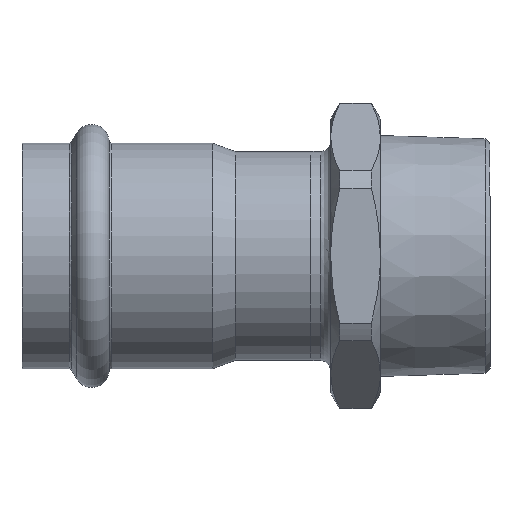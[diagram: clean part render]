
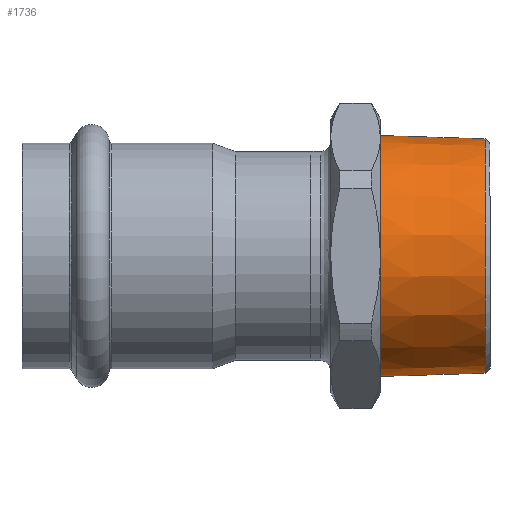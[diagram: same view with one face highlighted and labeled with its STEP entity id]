
A CAD part, top view. The second image highlights one B-rep face of the part: STEP entity #1736.
In plain terms, the highlighted conical face has half-angle 1.79 degrees and reference radius 23.839 mm.
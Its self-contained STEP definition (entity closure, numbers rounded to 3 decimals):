
#1694=CARTESIAN_POINT('',(-23.536,0.0,-1.));
#1695=VERTEX_POINT('',#1694);
#1696=CARTESIAN_POINT('',(0.0,0.,-1.));
#1697=DIRECTION('',(0.0,0.0,1.0));
#1698=DIRECTION('',(1.0,0.0,0.0));
#1699=AXIS2_PLACEMENT_3D('',#1696,#1697,#1698);
#1700=CIRCLE('',#1699,23.536);
#1701=EDGE_CURVE('',#1695,#1695,#1700,.T.);
#1717=CARTESIAN_POINT('',(0.0,0.0,-10.691));
#1718=DIRECTION('',(0.0,0.0,-1.0));
#1719=DIRECTION('',(1.0,0.0,0.0));
#1720=AXIS2_PLACEMENT_3D('',#1717,#1718,#1719);
#1721=CONICAL_SURFACE('',#1720,23.839,1.79);
#1722=CARTESIAN_POINT('',(24.192,0.0,-22.));
#1723=VERTEX_POINT('',#1722);
#1724=CARTESIAN_POINT('',(0.0,0.0,-22.));
#1725=DIRECTION('',(0.0,0.0,-1.0));
#1726=DIRECTION('',(1.0,0.0,0.0));
#1727=AXIS2_PLACEMENT_3D('',#1724,#1725,#1726);
#1728=CIRCLE('',#1727,24.192);
#1729=EDGE_CURVE('',#1723,#1723,#1728,.T.);
#1730=ORIENTED_EDGE('',*,*,#1729,.F.);
#1731=EDGE_LOOP('',(#1730));
#1732=FACE_OUTER_BOUND('',#1731,.T.);
#1733=ORIENTED_EDGE('',*,*,#1701,.F.);
#1734=EDGE_LOOP('',(#1733));
#1735=FACE_BOUND('',#1734,.T.);
#1736=ADVANCED_FACE('',(#1732,#1735),#1721,.T.);
